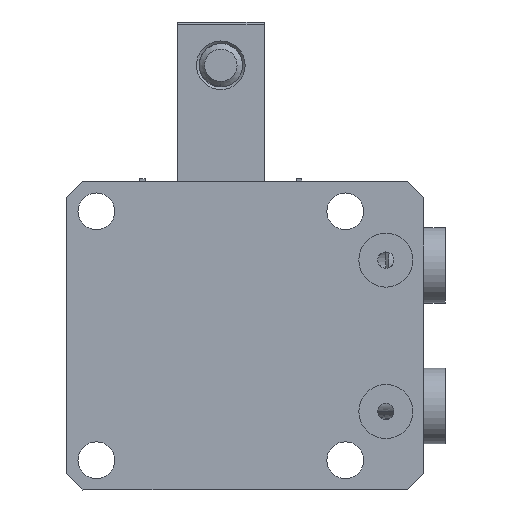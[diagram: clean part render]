
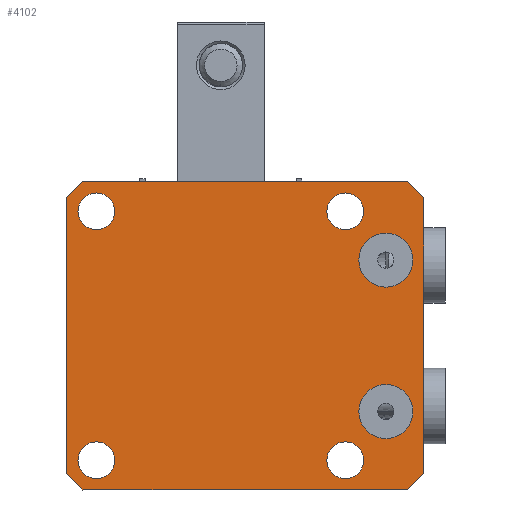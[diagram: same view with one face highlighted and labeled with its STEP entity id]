
A CAD part, front view. The second image highlights one B-rep face of the part: STEP entity #4102.
In plain terms, the highlighted planar face has unit normal (0, -1, 0).
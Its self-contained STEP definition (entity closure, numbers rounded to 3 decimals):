
#153=PLANE('',#4710);
#261=FACE_BOUND('',#749,.T.);
#262=FACE_BOUND('',#750,.T.);
#263=FACE_BOUND('',#751,.T.);
#264=FACE_BOUND('',#752,.T.);
#265=FACE_BOUND('',#753,.T.);
#266=FACE_BOUND('',#754,.T.);
#500=FACE_OUTER_BOUND('',#748,.T.);
#748=EDGE_LOOP('',(#3048,#3049,#3050,#3051,#3052,#3053,#3054,#3055));
#749=EDGE_LOOP('',(#3056));
#750=EDGE_LOOP('',(#3057));
#751=EDGE_LOOP('',(#3058));
#752=EDGE_LOOP('',(#3059));
#753=EDGE_LOOP('',(#3060));
#754=EDGE_LOOP('',(#3061));
#1024=LINE('',#6667,#1348);
#1036=LINE('',#6691,#1360);
#1073=LINE('',#6772,#1397);
#1074=LINE('',#6775,#1398);
#1075=LINE('',#6777,#1399);
#1076=LINE('',#6779,#1400);
#1077=LINE('',#6781,#1401);
#1078=LINE('',#6782,#1402);
#1348=VECTOR('',#5264,1000.);
#1360=VECTOR('',#5278,1000.);
#1397=VECTOR('',#5349,1000.);
#1398=VECTOR('',#5352,1000.);
#1399=VECTOR('',#5353,1000.);
#1400=VECTOR('',#5354,1000.);
#1401=VECTOR('',#5355,1000.);
#1402=VECTOR('',#5356,1000.);
#1658=CIRCLE('',#4644,5.);
#1660=CIRCLE('',#4647,5.);
#1661=CIRCLE('',#4649,3.4);
#1662=CIRCLE('',#4651,3.4);
#1663=CIRCLE('',#4653,3.4);
#1666=CIRCLE('',#4657,3.4);
#1862=VERTEX_POINT('',#6408);
#1864=VERTEX_POINT('',#6414);
#1865=VERTEX_POINT('',#6418);
#1866=VERTEX_POINT('',#6422);
#1867=VERTEX_POINT('',#6426);
#1870=VERTEX_POINT('',#6434);
#1903=VERTEX_POINT('',#6664);
#1904=VERTEX_POINT('',#6666);
#1915=VERTEX_POINT('',#6690);
#1942=VERTEX_POINT('',#6770);
#1943=VERTEX_POINT('',#6774);
#1944=VERTEX_POINT('',#6776);
#1945=VERTEX_POINT('',#6778);
#1946=VERTEX_POINT('',#6780);
#2261=EDGE_CURVE('',#1862,#1862,#1658,.T.);
#2264=EDGE_CURVE('',#1864,#1864,#1660,.T.);
#2265=EDGE_CURVE('',#1865,#1865,#1661,.T.);
#2267=EDGE_CURVE('',#1866,#1866,#1662,.T.);
#2269=EDGE_CURVE('',#1867,#1867,#1663,.T.);
#2273=EDGE_CURVE('',#1870,#1870,#1666,.T.);
#2320=EDGE_CURVE('',#1903,#1904,#1024,.T.);
#2332=EDGE_CURVE('',#1903,#1915,#1036,.T.);
#2374=EDGE_CURVE('',#1904,#1942,#1073,.T.);
#2375=EDGE_CURVE('',#1915,#1943,#1074,.T.);
#2376=EDGE_CURVE('',#1943,#1944,#1075,.T.);
#2377=EDGE_CURVE('',#1944,#1945,#1076,.T.);
#2378=EDGE_CURVE('',#1945,#1946,#1077,.T.);
#2379=EDGE_CURVE('',#1946,#1942,#1078,.T.);
#3048=ORIENTED_EDGE('',*,*,#2375,.T.);
#3049=ORIENTED_EDGE('',*,*,#2376,.T.);
#3050=ORIENTED_EDGE('',*,*,#2377,.T.);
#3051=ORIENTED_EDGE('',*,*,#2378,.T.);
#3052=ORIENTED_EDGE('',*,*,#2379,.T.);
#3053=ORIENTED_EDGE('',*,*,#2374,.F.);
#3054=ORIENTED_EDGE('',*,*,#2320,.F.);
#3055=ORIENTED_EDGE('',*,*,#2332,.T.);
#3056=ORIENTED_EDGE('',*,*,#2261,.T.);
#3057=ORIENTED_EDGE('',*,*,#2264,.T.);
#3058=ORIENTED_EDGE('',*,*,#2265,.T.);
#3059=ORIENTED_EDGE('',*,*,#2267,.T.);
#3060=ORIENTED_EDGE('',*,*,#2269,.T.);
#3061=ORIENTED_EDGE('',*,*,#2273,.T.);
#4102=ADVANCED_FACE('',(#500,#261,#262,#263,#264,#265,#266),#153,.T.);
#4644=AXIS2_PLACEMENT_3D('',#6410,#5147,#5148);
#4647=AXIS2_PLACEMENT_3D('',#6416,#5154,#5155);
#4649=AXIS2_PLACEMENT_3D('',#6419,#5158,#5159);
#4651=AXIS2_PLACEMENT_3D('',#6423,#5163,#5164);
#4653=AXIS2_PLACEMENT_3D('',#6427,#5168,#5169);
#4657=AXIS2_PLACEMENT_3D('',#6435,#5177,#5178);
#4710=AXIS2_PLACEMENT_3D('',#6773,#5350,#5351);
#5147=DIRECTION('center_axis',(0.,1.,0.));
#5148=DIRECTION('ref_axis',(0.,0.,-1.));
#5154=DIRECTION('center_axis',(0.,1.,0.));
#5155=DIRECTION('ref_axis',(0.,0.,-1.));
#5158=DIRECTION('center_axis',(0.,1.,0.));
#5159=DIRECTION('ref_axis',(0.,0.,1.));
#5163=DIRECTION('center_axis',(0.,1.,0.));
#5164=DIRECTION('ref_axis',(0.,0.,1.));
#5168=DIRECTION('center_axis',(0.,1.,0.));
#5169=DIRECTION('ref_axis',(0.,0.,1.));
#5177=DIRECTION('center_axis',(0.,1.,0.));
#5178=DIRECTION('ref_axis',(0.,0.,1.));
#5264=DIRECTION('',(1.,0.,0.));
#5278=DIRECTION('',(-0.707,0.,-0.707));
#5349=DIRECTION('',(0.707,0.,-0.707));
#5350=DIRECTION('center_axis',(0.,-1.,0.));
#5351=DIRECTION('ref_axis',(0.,0.,-1.));
#5352=DIRECTION('',(0.,0.,-1.));
#5353=DIRECTION('',(0.707,0.,-0.707));
#5354=DIRECTION('',(1.,0.,0.));
#5355=DIRECTION('',(0.707,0.,0.707));
#5356=DIRECTION('',(0.,0.,1.));
#6408=CARTESIAN_POINT('',(-404.549,141.613,-9.));
#6410=CARTESIAN_POINT('Origin',(-404.549,141.613,-14.));
#6414=CARTESIAN_POINT('',(-404.549,141.613,19.));
#6416=CARTESIAN_POINT('Origin',(-404.549,141.613,14.));
#6418=CARTESIAN_POINT('',(-458.049,141.613,19.6));
#6419=CARTESIAN_POINT('Origin',(-458.049,141.613,23.));
#6422=CARTESIAN_POINT('',(-412.049,141.613,19.6));
#6423=CARTESIAN_POINT('Origin',(-412.049,141.613,23.));
#6426=CARTESIAN_POINT('',(-412.049,141.613,-26.4));
#6427=CARTESIAN_POINT('Origin',(-412.049,141.613,-23.));
#6434=CARTESIAN_POINT('',(-458.049,141.613,-26.4));
#6435=CARTESIAN_POINT('Origin',(-458.049,141.613,-23.));
#6664=CARTESIAN_POINT('',(-460.549,141.613,28.5));
#6666=CARTESIAN_POINT('',(-400.549,141.613,28.5));
#6667=CARTESIAN_POINT('',(-460.549,141.613,28.5));
#6690=CARTESIAN_POINT('',(-463.549,141.613,25.5));
#6691=CARTESIAN_POINT('',(-460.549,141.613,28.5));
#6770=CARTESIAN_POINT('',(-397.549,141.613,25.5));
#6772=CARTESIAN_POINT('',(-400.549,141.613,28.5));
#6773=CARTESIAN_POINT('Origin',(-463.549,141.613,-28.5));
#6774=CARTESIAN_POINT('',(-463.549,141.613,-25.5));
#6775=CARTESIAN_POINT('',(-463.549,141.613,-28.5));
#6776=CARTESIAN_POINT('',(-460.549,141.613,-28.5));
#6777=CARTESIAN_POINT('',(-463.549,141.613,-25.5));
#6778=CARTESIAN_POINT('',(-400.549,141.613,-28.5));
#6779=CARTESIAN_POINT('',(-463.549,141.613,-28.5));
#6780=CARTESIAN_POINT('',(-397.549,141.613,-25.5));
#6781=CARTESIAN_POINT('',(-400.549,141.613,-28.5));
#6782=CARTESIAN_POINT('',(-397.549,141.613,-28.5));
